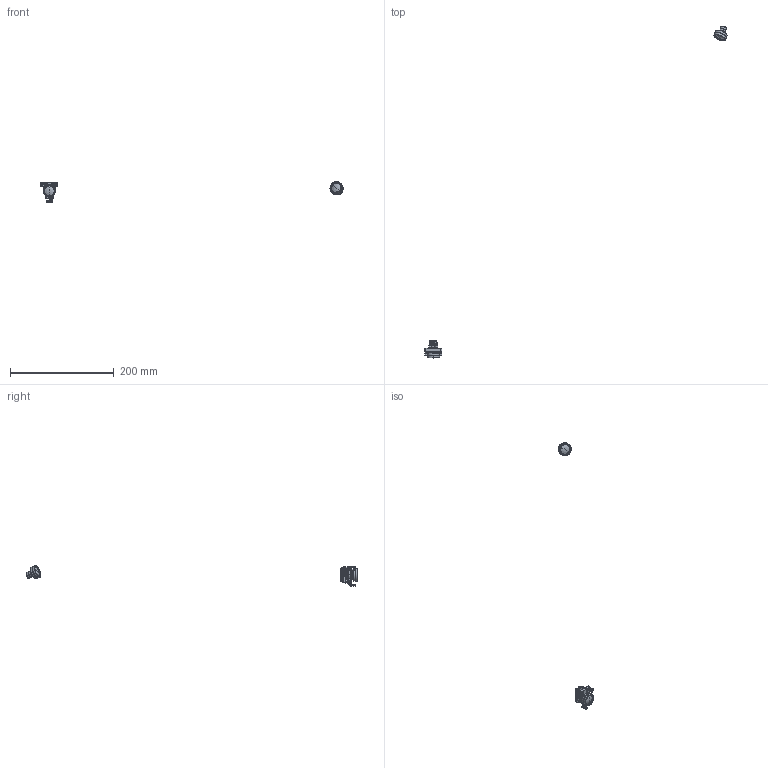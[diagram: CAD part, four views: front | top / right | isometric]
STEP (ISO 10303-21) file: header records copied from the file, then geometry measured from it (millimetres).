
FILE_DESCRIPTION(/* description */ ('(C) Elphel, Inc. 2012. Licensed under CERN OHL v.1.1 or later, see http://ohwr.org/cernohl'),/* implementation_level */ '2;1');
FILE_NAME(/* name */ '0353-07-25A',/* time_stamp */ '2012-01-05T13:09:11-07:00',/* author */ (''),/* organization */ ('Elphel, Inc'),/* preprocessor_version */ 'ST-DEVELOPER v12',/* originating_system */ 'VariCAD 2010-3.03; kernel version (20100102)',/* authorisation */ '');
FILE_SCHEMA (('AUTOMOTIVE_DESIGN'));
Products named in the file (1): Part
Bounding box: 582.41 x 639.18 x 40.03 mm (x, y, z)
Volume: 17551.5 mm3; surface area: 18482.3 mm2
Topology: 47 solids, 47 shells, 3121 faces, 8861 edges, 5710 vertices
Faces by surface type: plane 2032, cylinder 791, cone 280, torus 14, sphere 4
Entity records: 108226 total; most frequent: CARTESIAN_POINT 18994, ORIENTED_EDGE 17642, DIRECTION 16794, EDGE_CURVE 8821, LINE 6788, VECTOR 6788, VERTEX_POINT 5710, AXIS2_PLACEMENT_3D 5003
